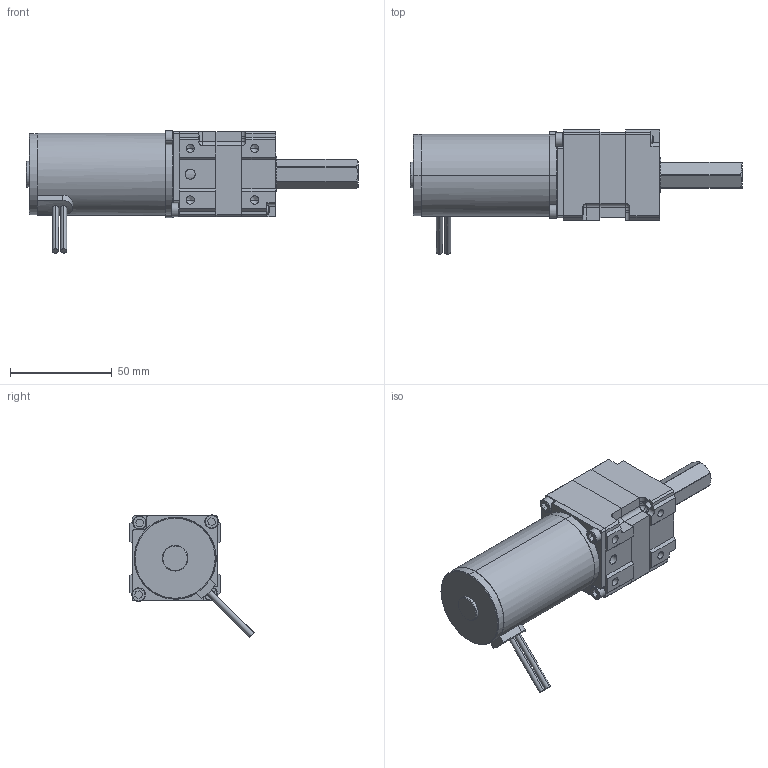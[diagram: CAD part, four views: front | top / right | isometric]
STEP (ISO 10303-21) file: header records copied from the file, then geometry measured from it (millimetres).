
FILE_DESCRIPTION (( 'STEP AP214' ), '1' );
FILE_NAME ('217-4973_1stage_BAG.STEP', '2016-10-31T22:14:23', ( '' ), ( '' ), 'SwSTEP 2.0', 'SolidWorks 2016', '' );
FILE_SCHEMA (( 'AUTOMOTIVE_DESIGN' ));
Length unit declared in the file: inch
Products named in the file (22): 217-2625-018 Rev1_98541A410; 217-2625-008 Rev1; 217-2816-001 Rev1; 217-4973_1stage_BAG; 217-4649-006 Rev1_SSA0004-008BA; 217-2625-010 Rev1; 217-2625-026 Rev1; 217-4649-007 Rev1_94105A824; 217-3351 Rev2; 217-2625-005 Rev1_Planet_Revolving_Follower01; 217-4649-001 Rev1; 217-2822-003 Rev4; 217-2625-100; 832-1750-Ring-Gear-Screw_SSA0832-0500ZC; 217-2625-017 Rev1_9714K61; 217-2820 Rev1_Public; 217-2625-003 Rev1; 217-2625-011 Rev1; 217-2625-007 Rev1_Public; 217-2742-001 Rev4; 217-4649-002 Rev1_SSA0832-0500ZC; 217-2625-025 Rev1
Assembly tree (29 placements, depth 4):
  217-4973_1stage_BAG
    217-2625-026 Rev1
    217-2742-001 Rev4  x2
    217-2625-017 Rev1_9714K61
    217-2625-003 Rev1
    217-2625-018 Rev1_98541A410
    832-1750-Ring-Gear-Screw_SSA0832-0500ZC  x2
    217-2625-025 Rev1
    217-4649-002 Rev1_SSA0832-0500ZC  x2
    217-4649-006 Rev1_SSA0004-008BA  x2
    217-2822-003 Rev4
    217-3351 Rev2
    217-2820 Rev1_Public
      217-2625-100
        217-2625-008 Rev1
        217-2625-010 Rev1  x3
        217-2625-005 Rev1_Planet_Revolving_Follower01  x3
      217-2625-007 Rev1_Public
    217-2816-001 Rev1
    217-4649-001 Rev1
    217-4649-007 Rev1_94105A824
    217-2625-011 Rev1
Bounding box: 163.4 x 61.05 x 60.15 mm (x, y, z)
Volume: 166489.8 mm3; surface area: 61521.1 mm2
Topology: 27 solids, 27 shells, 1776 faces, 4700 edges, 3003 vertices
Faces by surface type: cylinder 676, plane 362, bspline 336, cone 268, torus 130, sphere 4
Entity records: 93474 total; most frequent: CARTESIAN_POINT 55427, ORIENTED_EDGE 8088, DIRECTION 7063, EDGE_CURVE 4044, AXIS2_PLACEMENT_3D 2850, VERTEX_POINT 2597, EDGE_LOOP 1641, CIRCLE 1558
